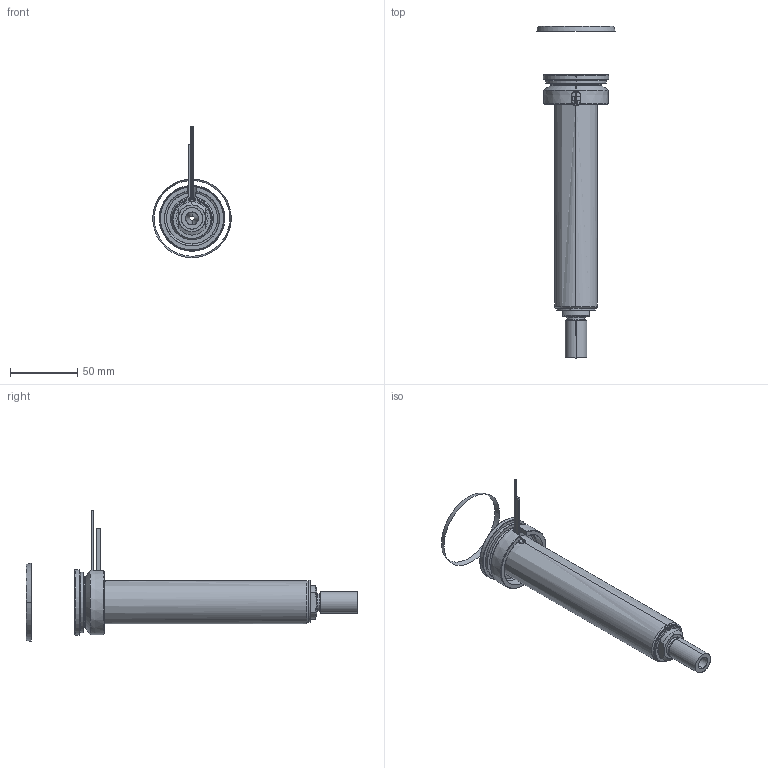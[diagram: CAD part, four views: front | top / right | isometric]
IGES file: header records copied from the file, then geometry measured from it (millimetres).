
Start section: SolidWorks IGES file using analytic representation for surfaces
Global section: file name: C:\Documents and Settings\ws-20\Desktop\TEMPORANEA\UGBE5004-S-A-P-5 [Ød-3.5 P-25 ØC-13].IGS; native system: SolidWorks 2012; preprocessor: SolidWorks 2012; author: ws-20; date: 120306.162724; units: millimetre
Bounding box: 58.57 x 247.44 x 97.91 mm (x, y, z)
Surface area: 69412.7 mm2 (no closed solid volume)
Topology: 0 solids, 0 shells, 111 faces, 2122 edges, 2122 vertices
Faces by surface type: revolution 68, bspline 43
